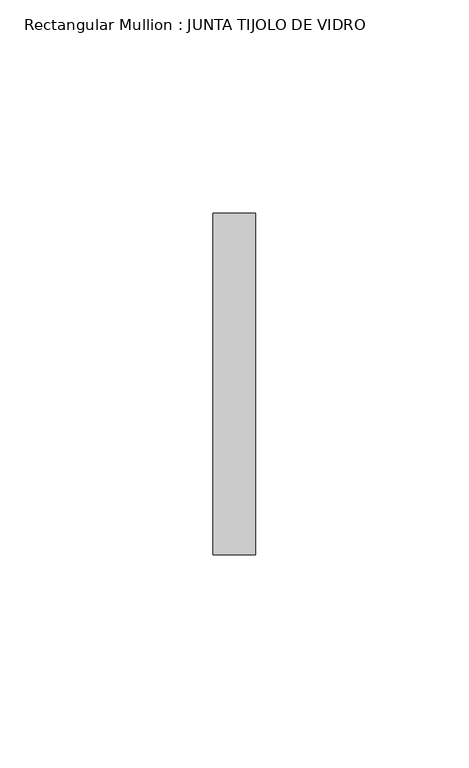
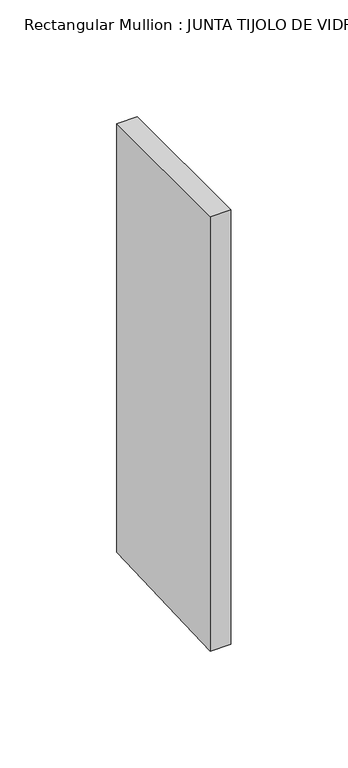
"""IFC4 building model written with IfcOpenShell, lengths in millimetres: member geometry, Rectangular Mullion : JUNTA TIJOLO DE VIDRO."""

from ifc_helpers import new_model, si_unit, frame, origin, place, context, project, spatial, polyline, outline, extrude, source, transform, mapped, element, save


def rectangular_mullion_junta_tijolo_de_vidro_bb85a0e6(model_context):
    return source(origin(), model_context, "Body", "SweptSolid", [
        extrude(outline(polyline([(-40.0, 0.0), (40.0, 0.0), (40.0, -223.7385578), (-40.0, -226.8752034), (-40.0, 0.0)])), frame((-10.0, 0.0, 0.0), z_axis=(1.0, 0.0, 0.0), x_axis=(0.0, 1.0, 0.0)), (0.0, 0.0, 1.0), 10.0),
    ])


if __name__ == "__main__":
    model = new_model("IFC4")
    model_context = context("Model", 3, world=origin())
    ifc_project = project(units=[si_unit("LENGTHUNIT", "METRE", prefix="MILLI")], contexts=[model_context])
    site = spatial("IfcSite", under=ifc_project)
    building = spatial("IfcBuilding", under=site)
    placement = place(None, origin())
    rectangular_mullion_junta_tijolo_de_vidro_shape = rectangular_mullion_junta_tijolo_de_vidro_bb85a0e6(model_context)
    element("IfcMember", 1, ObjectType="Rectangular Mullion : JUNTA TIJOLO DE VIDRO", at=placement, inside=building, context=model_context, shape_type="MappedRepresentation", body=[
        mapped(rectangular_mullion_junta_tijolo_de_vidro_shape, transform((0.0, 0.0, 0.0), x_axis=(1.0, 0.0, 0.0), y_axis=(0.0, 1.0, 0.0), z_axis=(0.0, 0.0, 1.0))),
    ])
    save(model, "model.ifc")
